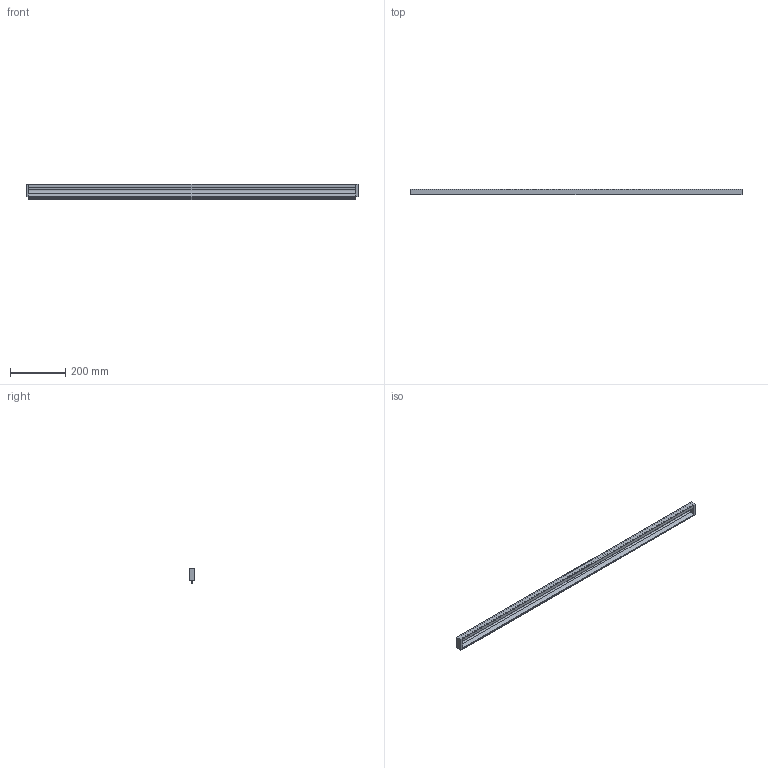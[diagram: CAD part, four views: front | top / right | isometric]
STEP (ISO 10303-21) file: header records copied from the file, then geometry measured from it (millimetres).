
FILE_DESCRIPTION( ( '' ), '1' );
FILE_NAME( 'C:/Users/kosh/Desktop/yb/9149293.stp', '2018-08-23T11:02:45', ( '' ), ( '' ), ' ', ' ', ' ' );
FILE_SCHEMA( ( 'automotive_design' ) );
Length unit declared in the file: millimetre
Products named in the file (1): 1
Bounding box: 1200 x 21.1 x 56.5 mm (x, y, z)
Volume: 447837.9 mm3; surface area: 263532.6 mm2
Topology: 1 solids, 1 shells, 67 faces, 188 edges, 124 vertices
Faces by surface type: plane 50, cylinder 17
Entity records: 4264 total; most frequent: STYLED_ITEM 380, PRESENTATION_STYLE_ASSIGNMENT 380, CARTESIAN_POINT 380, COLOUR_RGB 380, ORIENTED_EDGE 376, DIRECTION 358, EDGE_CURVE 188, CURVE_STYLE 188
